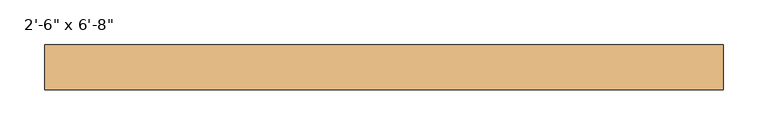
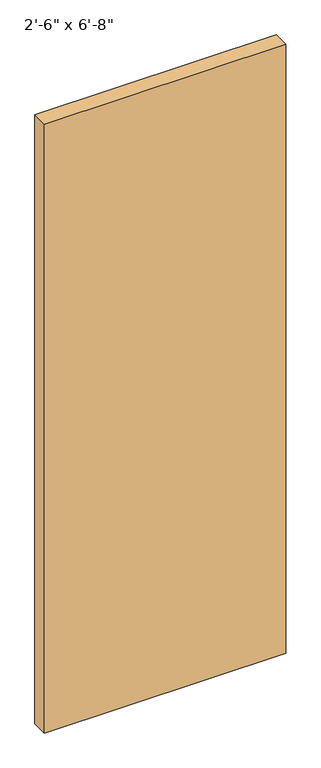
"""IFC4 building model written with IfcOpenShell, lengths in millimetres: door geometry."""

from ifc_helpers import new_model, si_unit, origin, origin_with_axes, place, context, project, spatial, polyline, outline, extrude, source, transform, mapped, element, save


def door_826f4222(model_context):
    return source(origin(), model_context, "Body", "SweptSolid", [
        extrude(outline(polyline([(381.0, 177.6), (-381.0, 177.6), (-381.0, 228.6), (381.0, 228.6), (381.0, 177.6)])), origin_with_axes(), (0.0, 0.0, 1.0), 2032.0),
    ])


if __name__ == "__main__":
    model = new_model("IFC4")
    model_context = context("Model", 3, world=origin())
    ifc_project = project(units=[si_unit("LENGTHUNIT", "METRE", prefix="MILLI")], contexts=[model_context])
    site = spatial("IfcSite", under=ifc_project)
    building = spatial("IfcBuilding", under=site)
    placement = place(None, origin())
    door_shape = door_826f4222(model_context)
    element("IfcDoor", 1, ObjectType="Planitar - Single Door_Flush Panel : 2'-6\" x 6'-8\"", at=placement, inside=building, context=model_context, shape_type="MappedRepresentation", body=[
        mapped(door_shape, transform((0.0, 0.0, 0.0), x_axis=(1.0, 0.0, 0.0), y_axis=(0.0, 1.0, 0.0), z_axis=(0.0, 0.0, 1.0))),
    ])
    save(model, "model.ifc")
